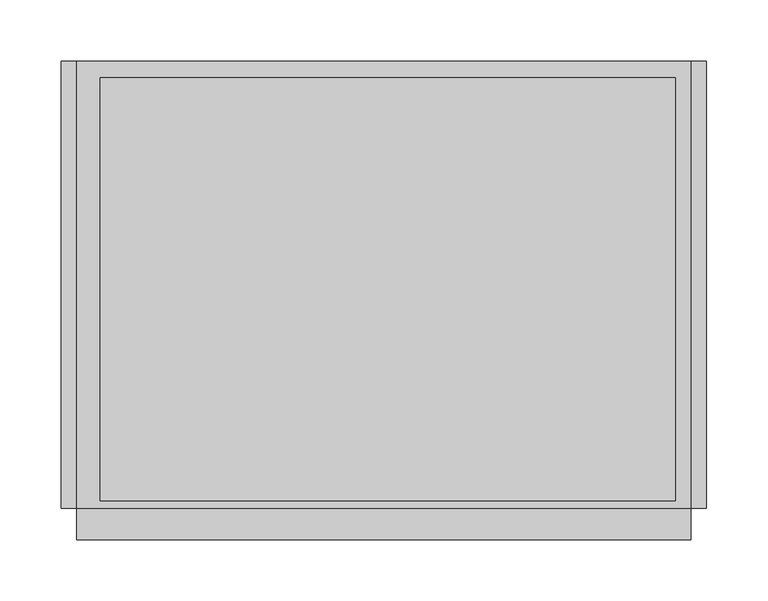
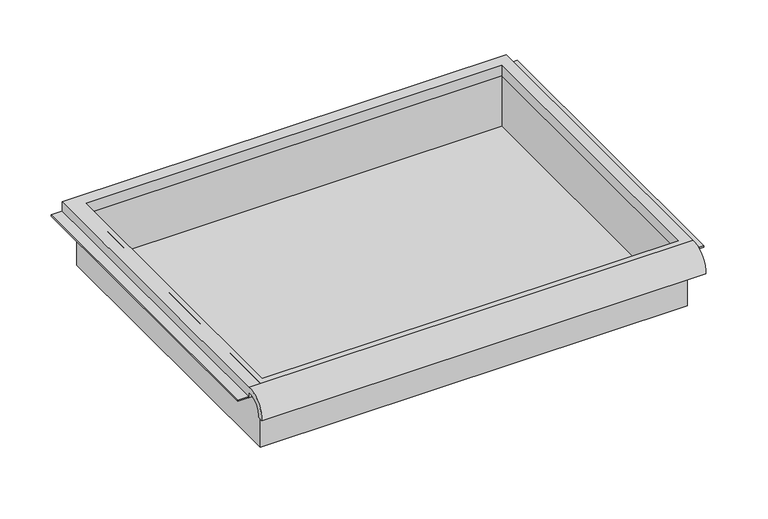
"""IFC4 building model written with IfcOpenShell, lengths in millimetres: furniture geometry."""

from ifc_helpers import new_model, si_unit, frame, origin, place, context, project, spatial, polyline, circle_curve, faceted_brep, source, transform, mapped, element, save
from ifc_brep_helpers import plane_surface, cylinder_surface, revolved_surface, advanced_brep


def furniture_07f965a8(model_context):
    return source(origin(), model_context, "Body", "SolidModel", [
        advanced_brep(
        [(263.7474999, -195.297482, 738.9849518), (263.7474999, -188.9125, 738.9849518), (263.7474999, -169.8625, 757.246425), (263.7474999, -169.8625, 750.8964246), (263.7474999, 195.2625, 750.8964246), (263.7474999, 195.2625, 763.596425), (263.7474999, -169.8625, 763.596425), (-237.9025001, -195.297482, 738.9849518), (-237.9025001, -169.8625, 763.596425), (-237.9025001, 195.2625, 763.596425), (-237.9025001, 195.2625, 750.8964246), (-237.9025001, -169.8625, 750.8964246), (-237.9025001, -169.8625, 757.246425), (-237.9025001, -188.9125, 738.9849518), (251.0474878, 181.9275, 750.8964246), (-218.8095642, 181.9275, 750.8964246), (-218.8095642, -163.5125, 750.8964246), (251.0474878, -163.5125, 750.8964246), (-218.8095642, 181.9275, 763.596425), (251.0474878, 181.9275, 763.596425), (251.0474878, -163.5125, 763.596425), (-218.8095642, -163.5125, 763.596425)],
        [
            (0, 1),
            (1, 2, circle_curve(frame((263.7474999, -172.3404634, 740.7643622), z_axis=(-1.0, 0.0, 0.0), x_axis=(0.0, 1.0, 0.0)), 16.6672942)),
            (2, 3),
            (3, 4),
            (4, 5),
            (5, 6),
            (6, 0, circle_curve(frame((263.7474999, -172.4601678, 740.8322522), z_axis=(1.0, 0.0, 0.0), x_axis=(0.0, 1.0, 0.0)), 22.9119061)),
            (7, 8, circle_curve(frame((-237.9025001, -172.4601678, 740.8322522), z_axis=(-1.0, 0.0, 0.0), x_axis=(0.0, 1.0, 0.0)), 22.9119061)),
            (8, 9),
            (9, 10),
            (10, 11),
            (11, 12),
            (12, 13, circle_curve(frame((-237.9025001, -172.3404634, 740.7643622), z_axis=(1.0, 0.0, 0.0), x_axis=(0.0, 1.0, 0.0)), 16.6672942)),
            (13, 7),
            (0, 7),
            (13, 1),
            (12, 2),
            (11, 3),
            (10, 4),
            (14, 15),
            (15, 16),
            (16, 17),
            (17, 14),
            (9, 5),
            (8, 6),
            (18, 19),
            (19, 20),
            (20, 21),
            (21, 18),
            (14, 19),
            (18, 15),
            (21, 16),
            (20, 17),
        ],
        [
            plane_surface(frame((263.7474999, -195.297482, 738.9849518), z_axis=(1.0, 0.0, 0.0), x_axis=(0.0, 1.0, 0.0))),
            plane_surface(frame((-237.9025001, -195.297482, 738.9849518), z_axis=(-1.0, 0.0, 0.0), x_axis=(0.0, -1.0, 0.0))),
            plane_surface(frame((263.7474999, -195.297482, 738.9849518), z_axis=(0.0, 0.0, -1.0), x_axis=(-1.0, 0.0, 0.0))),
            revolved_surface(polyline([(-237.9025001, -155.67316920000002, 740.7643622), (263.7474999, -155.67316920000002, 740.7643622)]), (-237.9025001, -172.3404634, 740.7643622), (-1.0, 0.0, 0.0)),
            plane_surface(frame((263.7474999, -169.8625, 757.246425), z_axis=(0.0, -1.0, 0.0), x_axis=(-1.0, 0.0, 0.0))),
            plane_surface(frame((263.7474999, -169.8625, 750.8964246), z_axis=(0.0, 0.0, -1.0), x_axis=(-1.0, 0.0, 0.0))),
            plane_surface(frame((263.7474999, 195.2625, 750.8964246), z_axis=(0.0, 1.0, 0.0), x_axis=(-1.0, 0.0, 0.0))),
            plane_surface(frame((263.7474999, 195.2625, 763.596425), z_axis=(0.0, 0.0, 1.0), x_axis=(-1.0, 0.0, 0.0))),
            cylinder_surface(frame((-237.9025001, -172.4601678, 740.8322522), z_axis=(1.0, 0.0, 0.0), x_axis=(0.0, 1.0, 0.0)), 22.9119061),
            plane_surface(frame((251.0474878, 181.9275, 763.596425), z_axis=(0.0, -1.0, 0.0), x_axis=(0.0, 0.0, -1.0))),
            plane_surface(frame((-218.8095642, 181.9275, 763.596425), z_axis=(1.0, 0.0, 0.0), x_axis=(0.0, 0.0, -1.0))),
            plane_surface(frame((-218.8095642, -163.5125, 763.596425), z_axis=(0.0, 1.0, 0.0), x_axis=(0.0, 0.0, -1.0))),
            plane_surface(frame((251.0474878, -163.5125, 763.596425), z_axis=(-1.0, 0.0, 0.0), x_axis=(0.0, 0.0, -1.0))),
        ],
        [
            (0, [[1, 2, 3, 4, 5, 6, 7]]),
            (1, [[8, 9, 10, 11, 12, 13, 14]]),
            (2, [[-1, 15, -14, 16]]),
            (3, [[-2, -16, -13, 17]]),
            (4, [[-3, -17, -12, 18]]),
            (5, [[-4, -18, -11, 19], [20, 21, 22, 23]]),
            (6, [[-5, -19, -10, 24]]),
            (7, [[-6, -24, -9, 25], [26, 27, 28, 29]]),
            (8, [[-7, -25, -8, -15]]),
            (9, [[30, -26, 31, -20]]),
            (10, [[-31, -29, 32, -21]]),
            (11, [[-32, -28, 33, -22]]),
            (12, [[-30, -23, -33, -27]]),
        ],
    ),
        faceted_brep([(-225.2025001, -169.8625, 687.396425), (257.3974878, -169.8625, 687.396425), (257.3974878, -169.8625, 763.596425), (-225.2025001, -169.8625, 763.596425), (-225.2025001, 188.9125, 687.396425), (-225.2025001, 188.9125, 763.596425), (257.3974878, 188.9125, 763.596425), (257.3974878, 188.9125, 687.396425), (-218.8095642, 181.9275, 763.596425), (251.0474878, 181.9275, 763.596425), (251.0474878, -163.5125, 763.596425), (-218.8095642, -163.5125, 763.596425), (251.0474878, 181.9275, 690.571425), (-218.8095642, 181.9275, 690.571425), (-218.8095642, -163.5125, 690.571425), (251.0474878, -163.5125, 690.571425)], [[[0, 1, 2, 3]], [[4, 5, 6, 7]], [[1, 0, 4, 7]], [[2, 1, 7, 6]], [[3, 2, 6, 5], [8, 9, 10, 11]], [[0, 3, 5, 4]], [[12, 13, 14, 15]], [[13, 12, 9, 8]], [[14, 13, 8, 11]], [[15, 14, 11, 10]], [[12, 15, 10, 9]]]),
        faceted_brep([(-250.6025001, 195.2625, 750.8964246), (-250.6025001, 195.2625, 752.4839246), (-231.5525001, 195.2625, 752.4839246), (-231.5525001, 195.2625, 750.8964246), (-250.6025001, -169.8625, 750.8964246), (-231.5525001, -169.8625, 750.8964246), (-231.5525001, -169.8625, 752.4839246), (-250.6025001, -169.8625, 752.4839246)], [[[0, 1, 2, 3]], [[4, 5, 6, 7]], [[1, 0, 4, 7]], [[2, 1, 7, 6]], [[3, 2, 6, 5]], [[0, 3, 5, 4]]]),
        faceted_brep([(276.4474999, 195.2625, 750.8964246), (263.7474999, 195.2625, 750.8964246), (263.7474999, 195.2625, 752.4839246), (276.4474999, 195.2625, 752.4839246), (276.4474999, -169.8625, 750.8964246), (276.4474999, -169.8625, 752.4839246), (263.7474999, -169.8625, 752.4839246), (263.7474999, -169.8625, 750.8964246)], [[[0, 1, 2, 3]], [[4, 5, 6, 7]], [[1, 0, 4, 7]], [[2, 1, 7, 6]], [[3, 2, 6, 5]], [[0, 3, 5, 4]]]),
    ])


if __name__ == "__main__":
    model = new_model("IFC4")
    model_context = context("Model", 3, world=origin())
    ifc_project = project(units=[si_unit("LENGTHUNIT", "METRE", prefix="MILLI")], contexts=[model_context])
    site = spatial("IfcSite", under=ifc_project)
    building = spatial("IfcBuilding", under=site)
    placement = place(None, origin())
    furniture_shape = furniture_07f965a8(model_context)
    element("IfcFurniture", 1, ObjectType="HermanMiller_Carts_CT501_Drawer : 3\"H x 15\"D x 20\"W", at=placement, inside=building, context=model_context, shape_type="MappedRepresentation", body=[
        mapped(furniture_shape, transform((0.0, 0.0, 0.0), x_axis=(1.0, 0.0, 0.0), y_axis=(0.0, 1.0, 0.0), z_axis=(0.0, 0.0, 1.0))),
    ])
    save(model, "model.ifc")
